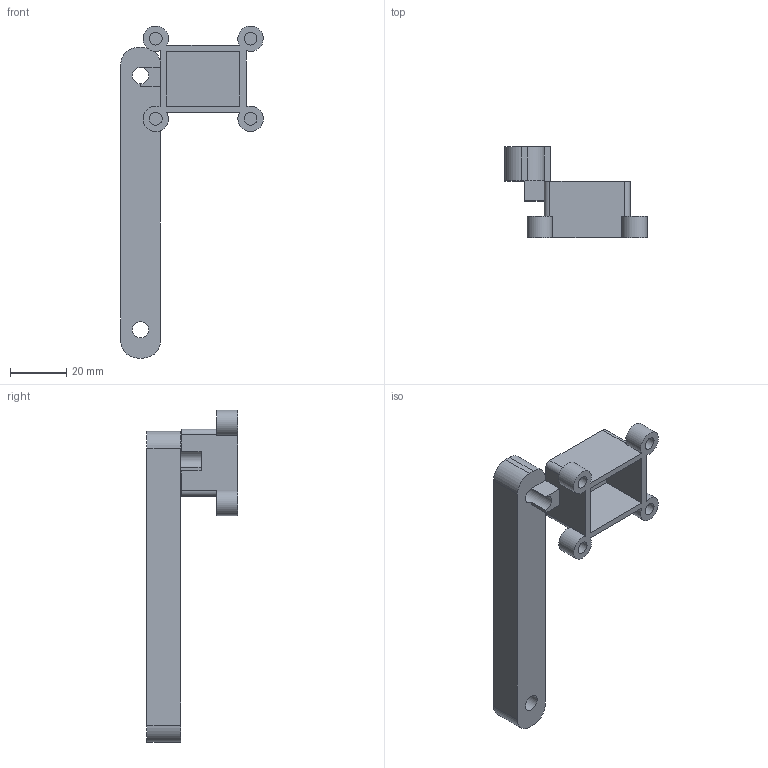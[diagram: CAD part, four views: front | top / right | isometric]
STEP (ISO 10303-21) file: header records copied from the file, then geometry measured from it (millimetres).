
FILE_DESCRIPTION(('FreeCAD Model'),'2;1');
FILE_NAME('Open CASCADE Shape Model','2026-10-14T02:29:13',('FreeCAD'),( 'FreeCAD'),'Open CASCADE STEP processor 7.8','FreeCAD','Unknown');
FILE_SCHEMA(('AUTOMOTIVE_DESIGN { 1 0 10303 214 1 1 1 1 }'));
Length unit declared in the file: millimetre
Products named in the file (1): Open CASCADE STEP translator 7.8 71
Bounding box: 50.46 x 32.4 x 117.58 mm (x, y, z)
Volume: 24811.4 mm3; surface area: 13024 mm2
Topology: 1 solids, 1 shells, 53 faces, 150 edges, 102 vertices
Faces by surface type: plane 35, cylinder 18
Full cylindrical faces by diameter (mm): 4.5 x4, 5.8 x2
Entity records: 1759 total; most frequent: CARTESIAN_POINT 307, DIRECTION 307, ORIENTED_EDGE 300, EDGE_CURVE 150, AXIS2_PLACEMENT_3D 104, VERTEX_POINT 102, LINE 99, VECTOR 99
